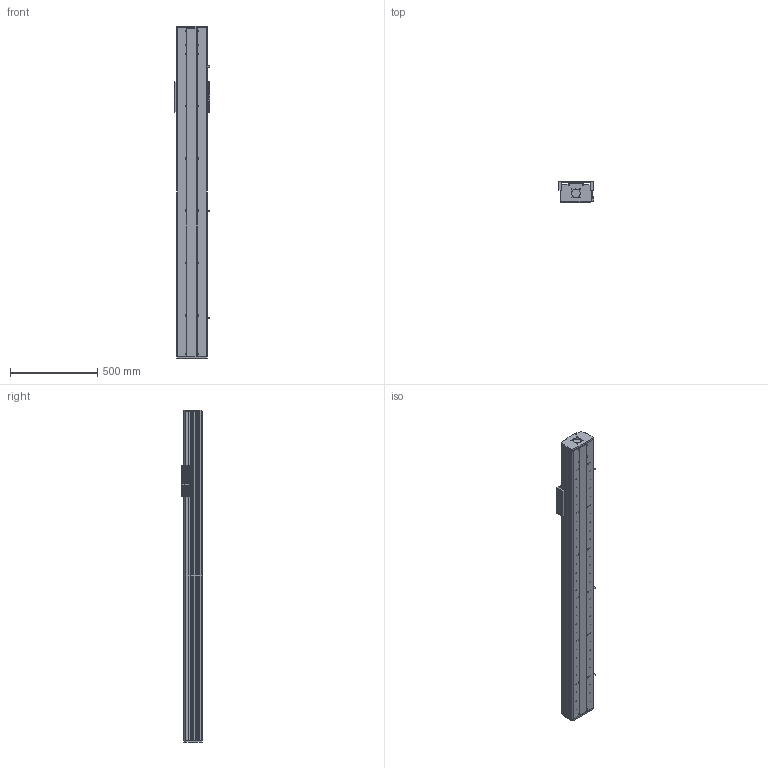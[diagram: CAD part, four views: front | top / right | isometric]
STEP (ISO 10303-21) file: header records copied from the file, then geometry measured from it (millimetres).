
FILE_DESCRIPTION (( 'STEP AP203' ), '1' );
FILE_NAME ('CF175B-C-1550-FW.STEP', '2020-07-15T01:59:57', ( 'Micorosoft' ), ( 'Micorosoft' ), 'SwSTEP 2.0', 'SolidWorks 2016', '' );
FILE_SCHEMA (( 'CONFIG_CONTROL_DESIGN' ));
Length unit declared in the file: millimetre
Products named in the file (12): 175B珨极嘐隅釱; 175-2盓傅釱; 嫖萇羲壽; CF175-2蹟譫釱; CF175B-C-1550-FW; 175B裔啣-1550; 175B臏倰第-1550; EGR20絳寢-1550; CF175-2賑雄啣; 75-86-95癹弇羲壽覜茼え; CF-EGH20CA賑輸; 175-2耜啣
Assembly tree (17 placements, depth 2):
  CF175B-C-1550-FW
    175-2耜啣
    175-2盓傅釱
    CF175-2蹟譫釱
    175B裔啣-1550
    175B臏倰第-1550
    EGR20絳寢-1550  x2
    CF175-2賑雄啣
    75-86-95癹弇羲壽覜茼え
    CF-EGH20CA賑輸  x4
    175B珨极嘐隅釱
    嫖萇羲壽  x3
Bounding box: 201.1 x 116.8 x 1905 mm (x, y, z)
Volume: 12961997.5 mm3; surface area: 3574017.9 mm2
Topology: 23 solids, 23 shells, 1662 faces, 4251 edges, 2824 vertices
Faces by surface type: cylinder 859, plane 797, cone 4, bspline 2
Entity records: 39419 total; most frequent: DIRECTION 6922, CARTESIAN_POINT 6629, ORIENTED_EDGE 6226, EDGE_CURVE 3113, AXIS2_PLACEMENT_3D 2601, VERTEX_POINT 2068, LINE 1720, VECTOR 1720
